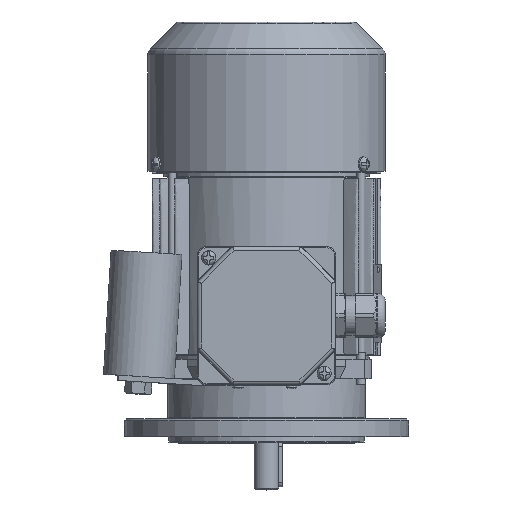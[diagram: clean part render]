
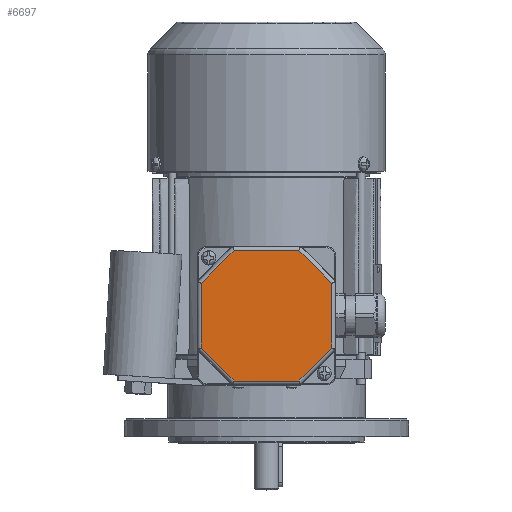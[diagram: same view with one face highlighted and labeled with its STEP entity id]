
A CAD part, top view. The second image highlights one B-rep face of the part: STEP entity #6697.
In plain terms, the highlighted planar face has unit normal (0, 0, 1).
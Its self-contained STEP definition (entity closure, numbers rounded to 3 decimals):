
#6697 = ADVANCED_FACE( '', ( #13594 ), #13595, .T. );
#13594 = FACE_OUTER_BOUND( '', #49656, .T. );
#13595 = PLANE( '', #49657 );
#49656 = EDGE_LOOP( '', ( #71097, #71098, #71099, #71100, #71101, #71102, #71103, #71104 ) );
#49657 = AXIS2_PLACEMENT_3D( '', #71105, #71106, #71107 );
#71097 = ORIENTED_EDGE( '', *, *, #81364, .T. );
#71098 = ORIENTED_EDGE( '', *, *, #80493, .T. );
#71099 = ORIENTED_EDGE( '', *, *, #81365, .T. );
#71100 = ORIENTED_EDGE( '', *, *, #80989, .T. );
#71101 = ORIENTED_EDGE( '', *, *, #76646, .T. );
#71102 = ORIENTED_EDGE( '', *, *, #80468, .T. );
#71103 = ORIENTED_EDGE( '', *, *, #79593, .T. );
#71104 = ORIENTED_EDGE( '', *, *, #80620, .T. );
#71105 = CARTESIAN_POINT( '', ( -39., 39., 12. ) );
#71106 = DIRECTION( '', ( 0., 0., 1. ) );
#71107 = DIRECTION( '', ( 1., 0., 0. ) );
#76646 = EDGE_CURVE( '', #86525, #86526, #86527, .F. );
#79593 = EDGE_CURVE( '', #82312, #90793, #90794, .F. );
#80468 = EDGE_CURVE( '', #86526, #82312, #91878, .T. );
#80493 = EDGE_CURVE( '', #91908, #91909, #91910, .T. );
#80620 = EDGE_CURVE( '', #90793, #82200, #92070, .T. );
#80989 = EDGE_CURVE( '', #92518, #86525, #92519, .T. );
#81364 = EDGE_CURVE( '', #82200, #91908, #92918, .F. );
#81365 = EDGE_CURVE( '', #91909, #92518, #92919, .F. );
#82200 = VERTEX_POINT( '', #94225 );
#82312 = VERTEX_POINT( '', #94530 );
#86525 = VERTEX_POINT( '', #107563 );
#86526 = VERTEX_POINT( '', #107564 );
#86527 = LINE( '', #107565, #107566 );
#90793 = VERTEX_POINT( '', #124597 );
#90794 = LINE( '', #124598, #124599 );
#91878 = LINE( '', #127593, #127594 );
#91908 = VERTEX_POINT( '', #127637 );
#91909 = VERTEX_POINT( '', #127638 );
#91910 = LINE( '', #127639, #127640 );
#92070 = LINE( '', #128653, #128654 );
#92518 = VERTEX_POINT( '', #129798 );
#92519 = LINE( '', #129799, #129800 );
#92918 = LINE( '', #131546, #131547 );
#92919 = LINE( '', #131548, #131549 );
#94225 = CARTESIAN_POINT( '', ( 36.825, -18.255, 12. ) );
#94530 = CARTESIAN_POINT( '', ( -18.255, -36.825, 12. ) );
#107563 = CARTESIAN_POINT( '', ( -36.825, 18.255, 12. ) );
#107564 = CARTESIAN_POINT( '', ( -36.825, -18.255, 12. ) );
#107565 = CARTESIAN_POINT( '', ( -36.825, -19.069, 12. ) );
#107566 = VECTOR( '', #136017, 1000. );
#124597 = CARTESIAN_POINT( '', ( 18.255, -36.825, 12. ) );
#124598 = CARTESIAN_POINT( '', ( 19.069, -36.825, 12. ) );
#124599 = VECTOR( '', #139137, 1000. );
#127593 = CARTESIAN_POINT( '', ( -17.679, -37.401, 12. ) );
#127594 = VECTOR( '', #139999, 1000. );
#127637 = CARTESIAN_POINT( '', ( 36.825, 18.255, 12. ) );
#127638 = CARTESIAN_POINT( '', ( 18.255, 36.825, 12. ) );
#127639 = CARTESIAN_POINT( '', ( 17.679, 37.401, 12. ) );
#127640 = VECTOR( '', #140031, 1000. );
#128653 = CARTESIAN_POINT( '', ( 37.401, -17.679, 12. ) );
#128654 = VECTOR( '', #140141, 1000. );
#129798 = CARTESIAN_POINT( '', ( -18.255, 36.825, 12. ) );
#129799 = CARTESIAN_POINT( '', ( -37.401, 17.679, 12. ) );
#129800 = VECTOR( '', #140593, 1000. );
#131546 = CARTESIAN_POINT( '', ( 36.825, 19.069, 12. ) );
#131547 = VECTOR( '', #140783, 1000. );
#131548 = CARTESIAN_POINT( '', ( -19.069, 36.825, 12. ) );
#131549 = VECTOR( '', #140784, 1000. );
#136017 = DIRECTION( '', ( 0., 1., 0. ) );
#139137 = DIRECTION( '', ( -1., 0., 0. ) );
#139999 = DIRECTION( '', ( 0.707, -0.707, 0. ) );
#140031 = DIRECTION( '', ( -0.707, 0.707, 0. ) );
#140141 = DIRECTION( '', ( 0.707, 0.707, 0. ) );
#140593 = DIRECTION( '', ( -0.707, -0.707, 0. ) );
#140783 = DIRECTION( '', ( 0., -1., 0. ) );
#140784 = DIRECTION( '', ( 1., 0., 0. ) );
